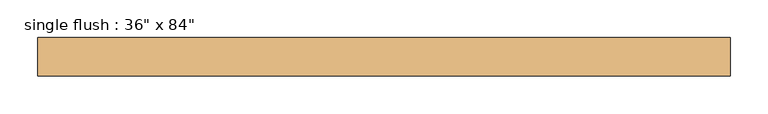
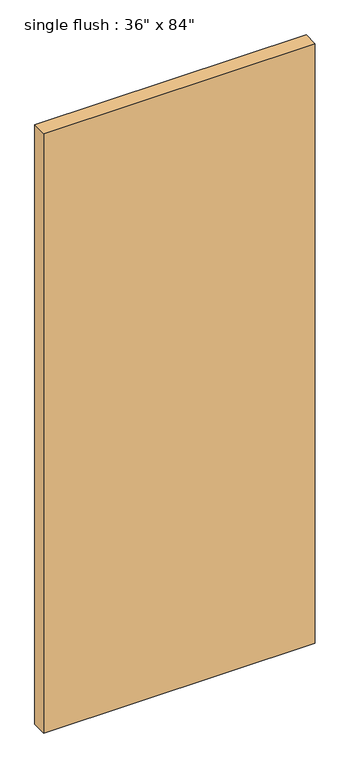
"""IFC4 building model written with IfcOpenShell, lengths in millimetres: door geometry."""

from ifc_helpers import new_model, si_unit, origin, origin_with_axes, place, context, project, spatial, polyline, outline, extrude, source, transform, mapped, element, save


def door_0cd0af3e(model_context):
    return source(origin(), model_context, "Body", "SweptSolid", [
        extrude(outline(polyline([(457.2, 25.4), (-457.2, 25.4), (-457.2, 76.2), (457.2, 76.2), (457.2, 25.4)])), origin_with_axes(), (0.0, 0.0, 1.0), 2133.6),
    ])


if __name__ == "__main__":
    model = new_model("IFC4")
    model_context = context("Model", 3, world=origin())
    ifc_project = project(units=[si_unit("LENGTHUNIT", "METRE", prefix="MILLI")], contexts=[model_context])
    site = spatial("IfcSite", under=ifc_project)
    building = spatial("IfcBuilding", under=site)
    placement = place(None, origin())
    door_shape = door_0cd0af3e(model_context)
    element("IfcDoor", 1, ObjectType="single flush : 36\" x 84\"", at=placement, inside=building, context=model_context, shape_type="MappedRepresentation", body=[
        mapped(door_shape, transform((0.0, 0.0, 0.0), x_axis=(1.0, 0.0, 0.0), y_axis=(0.0, 1.0, 0.0), z_axis=(0.0, 0.0, 1.0))),
    ])
    save(model, "model.ifc")
